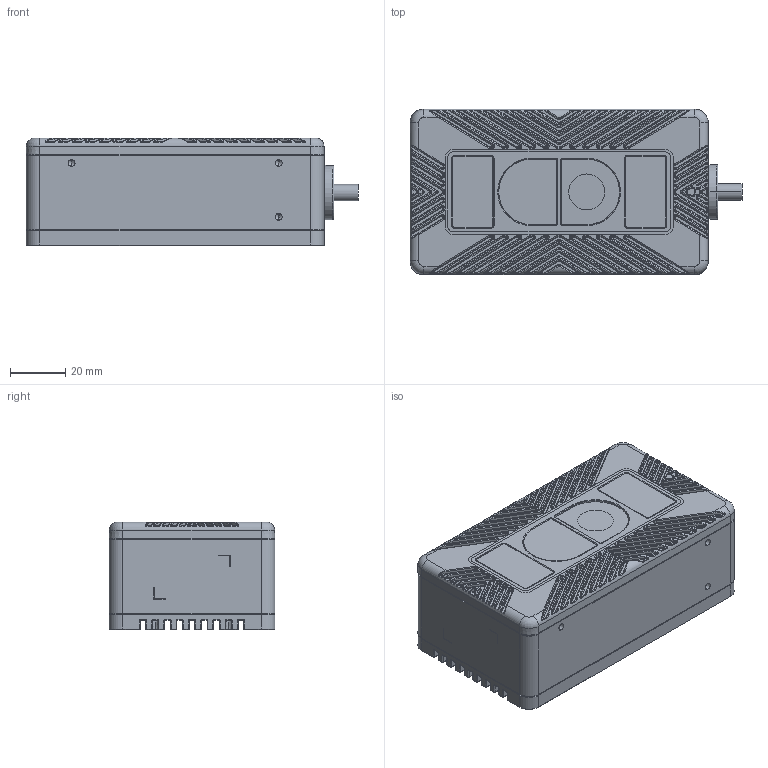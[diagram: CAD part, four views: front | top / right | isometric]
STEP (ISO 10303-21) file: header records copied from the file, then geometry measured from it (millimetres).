
FILE_DESCRIPTION (( 'STEP AP214' ), '1' );
FILE_NAME ('DM-SE 蚾饜极.STEP', '2026-02-27T09:13:00', ( '' ), ( '' ), 'SwSTEP 2.0', 'SolidWorks 2020', '' );
FILE_SCHEMA (( 'AUTOMOTIVE_DESIGN' ));
Length unit declared in the file: millimetre
Products named in the file (13): DMヶ裔郪璃_羲耀欴宒; DC-AR0234-100MM-2358V1; DM-SE后壳_DM-SE后壳开模样式; DM_Power_V1郪璃; M1.6X5.5-M2X1.5-SMT肣翐; DM-RGB敦諳え; DM-TOF敦諳え; DM-SE 蚾饜极; DM-絳嫖翐; DM慾嫖ん敦諳え; SR-FS-帣縐; DM笢褲_DM-SE; DM前壳_开模样式（含拔模角度）
Assembly tree (14 placements, depth 3):
  DM-SE 蚾饜极
    DMヶ裔郪璃_羲耀欴宒
      DM前壳_开模样式（含拔模角度）
      DM慾嫖ん敦諳え  x2
      DM-RGB敦諳え
      DM-TOF敦諳え
      DM-絳嫖翐
    DM笢褲_DM-SE
    DM-SE后壳_DM-SE后壳开模样式
    DC-AR0234-100MM-2358V1
    DM_Power_V1郪璃
      M1.6X5.5-M2X1.5-SMT肣翐  x2
    SR-FS-帣縐
Bounding box: 120.21 x 60 x 39 mm (x, y, z)
Volume: 92480.5 mm3; surface area: 70894.5 mm2
Topology: 12 solids, 12 shells, 2817 faces, 6813 edges, 4070 vertices
Faces by surface type: cylinder 1051, bspline 744, plane 598, cone 253, torus 163, sphere 8
Entity records: 95434 total; most frequent: CARTESIAN_POINT 35140, ORIENTED_EDGE 13462, DIRECTION 11475, EDGE_CURVE 6731, AXIS2_PLACEMENT_3D 4404, VERTEX_POINT 4046, EDGE_LOOP 2937, FACE_OUTER_BOUND 2801
